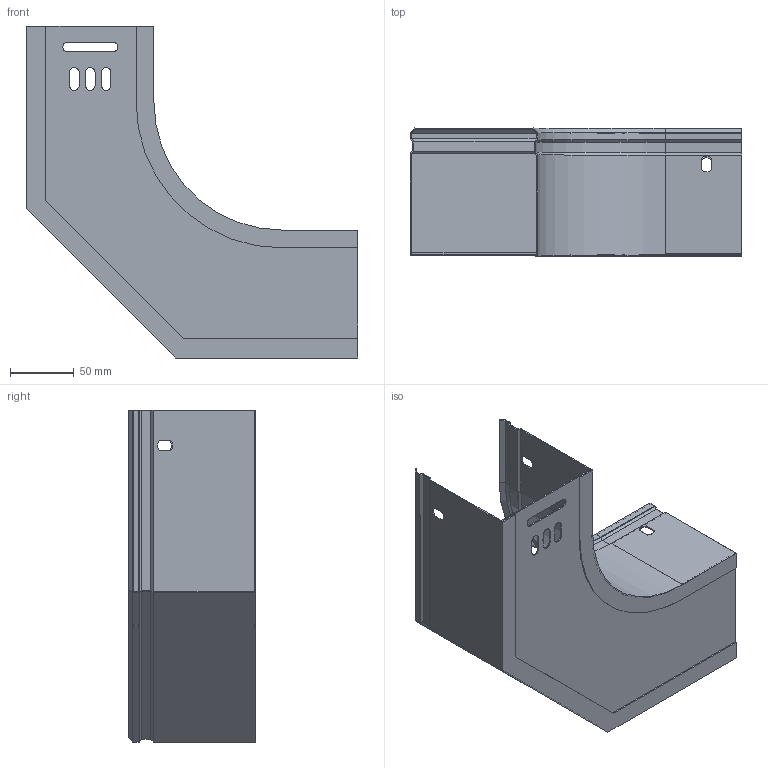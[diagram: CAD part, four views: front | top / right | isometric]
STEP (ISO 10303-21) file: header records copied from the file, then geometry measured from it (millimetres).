
FILE_DESCRIPTION (( 'STEP AP203' ), '1' );
FILE_NAME ('ERE_CPERC 100x100.step', '2023-07-27T18:47:47', ( '' ), ( '' ), 'SwSTEP 2.0', 'SolidWorks 2022', '' );
FILE_SCHEMA (( 'CONFIG_CONTROL_DESIGN' ));
Length unit declared in the file: millimetre
Products named in the file (4): ERE_BASE CP_100; ERE_LATERAL INT CP_100; ERE_CPERC 100x100; ERE_LATERAL EXT CP_100 x 100
Assembly tree (3 placements, depth 2):
  ERE_CPERC 100x100
    ERE_BASE CP_100
    ERE_LATERAL INT CP_100
    ERE_LATERAL EXT CP_100 x 100
Bounding box: 260.38 x 100 x 260.38 mm (x, y, z)
Volume: 120087.1 mm3; surface area: 243387.8 mm2
Topology: 3 solids, 3 shells, 135 faces, 339 edges, 210 vertices
Faces by surface type: plane 103, cylinder 25, cone 7
Entity records: 4387 total; most frequent: CARTESIAN_POINT 690, ORIENTED_EDGE 678, DIRECTION 673, EDGE_CURVE 339, LINE 287, VECTOR 287, VERTEX_POINT 210, AXIS2_PLACEMENT_3D 193
